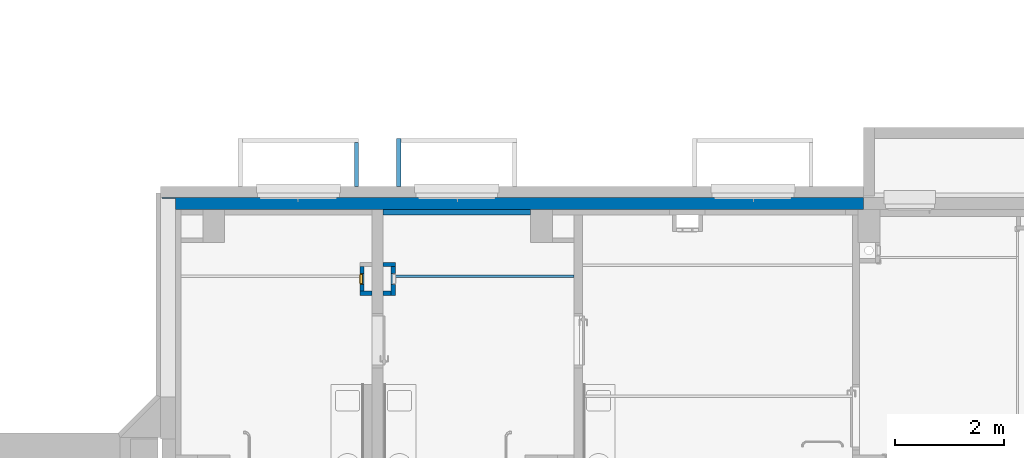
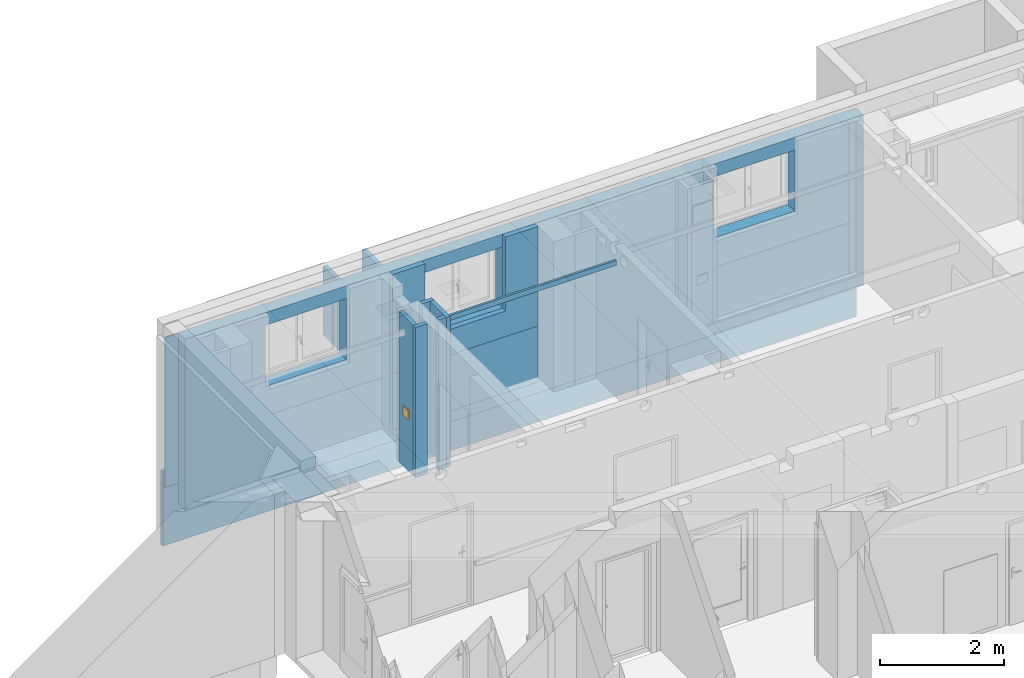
# One storey, part 23 of 84: 11 walls, 1 window, 8 openings.
"""IFC4 building model written with IfcOpenShell, lengths in metres."""

from ifc_helpers import new_model, entity, si_unit, converted_unit, derived_unit, frame, frame_2d, origin, origin_with_axes, place, context, subcontext, project, spatial, polyline, rectangle, outline, extrude, clip, bounded_halfspace, faceted_brep, source, transform, mapped, material, layer, layer_set, layer_usage, element, fill, save


model = new_model("IFC4")

# Units and contexts
model_context = context("Model", 3, precision=1e-05, world=origin())
body_context = subcontext(model_context, "Body", "Model", "MODEL_VIEW")
ifc_project = project(units=[si_unit("LENGTHUNIT", "METRE"), si_unit("AREAUNIT", "SQUARE_METRE"), si_unit("VOLUMEUNIT", "CUBIC_METRE"), si_unit("MASSUNIT", "GRAM", prefix="KILO"), converted_unit("PLANEANGLEUNIT", "DEGREE", entity("IfcPlaneAngleMeasure", 0.0174532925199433), si_unit("PLANEANGLEUNIT", "RADIAN"), dimensions=[0, 0, 0, 0, 0, 0, 0]), derived_unit("THERMALTRANSMITTANCEUNIT", [(si_unit("POWERUNIT", "WATT"), 1), (si_unit("THERMODYNAMICTEMPERATUREUNIT", "KELVIN"), -1), (si_unit("LENGTHUNIT", "METRE"), -2)]), derived_unit("VOLUMETRICFLOWRATEUNIT", [(si_unit("LENGTHUNIT", "METRE"), 3), (converted_unit("TIMEUNIT", "hour", entity("IfcTimeMeasure", 3600.0), si_unit("TIMEUNIT", "SECOND"), dimensions=[0, 0, 1, 0, 0, 0, 0]), -1), (si_unit("LENGTHUNIT", "METRE"), -1)])], contexts=[model_context])

# Site, building, storey
site_placement = place(None, origin())
site = spatial("IfcSite", under=ifc_project, at=site_placement, Name="3. ASŘ", CompositionType="ELEMENT")
building_placement = place(site_placement, origin())
building = spatial("IfcBuilding", under=site, at=building_placement, Name="Pavilon C", CompositionType="ELEMENT")
storey_placement = place(building_placement, frame((0.0, 0.0, -3.3)))
storey = spatial("IfcBuildingStorey", under=building, at=storey_placement, Name="Půdorys 1.PP", CompositionType="ELEMENT", Elevation=-3.3)

# Wall, openings
ifc_material_1 = material(Name="ZELEZOBETONOVÁ KCE")
ifc_layer_1 = layer(ifc_material_1, 0.200000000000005)
ifc_material_2 = material(Name="LIGNOPOR")
ifc_layer_2 = layer(ifc_material_2, 0.025)
ifc_material_3 = material(Name="PÓROBETONOVÉ ZDIVO")
ifc_layer_3 = layer(ifc_material_3, 0.08)
ifc_layer_set_1 = layer_set([ifc_layer_1, ifc_layer_2, ifc_layer_3])
ifc_layer_usage_1 = layer_usage(ifc_layer_set_1, "AXIS2", "POSITIVE", 0.0)
wall_1_placement = place(storey_placement, frame((-0.699999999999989, 15.0, -1.15), z_axis=(0.0, 0.0, 1.0), x_axis=(1.0, -1.44364238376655e-16, 0.0)))
wall_1 = element("IfcWall", 1, at=wall_1_placement, inside=storey, material=ifc_layer_usage_1, Name="ZELEZOBETONOVÁ KCE", context=body_context, shape_type="Clipping", body=[
    clip(clip(clip(extrude(outline(polyline([(-4.40310927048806e-17, 0.305000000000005), (-3.24819536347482e-17, 0.225000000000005), (0.025, 0.225000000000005), (0.025, 0.200000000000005), (0.275, 0.200000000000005), (0.275, 1.85868956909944e-15), (12.875, 1.85868956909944e-15), (12.875, 0.305000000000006), (-4.40310927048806e-17, 0.305000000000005)])), frame((-0.275, -1.85868956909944e-15, 0.0), z_axis=(0.0, 0.0, 1.0), x_axis=(1.0, 0.0, 0.0)), (0.0, 0.0, 1.0), 4.1), bounded_halfspace(frame((6.3, 0.100000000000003, 0.75), z_axis=(0.0, 0.0, 1.0), x_axis=(1.44364238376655e-16, -1.0, 0.0)), True, origin_with_axes(), polyline([(6.53248178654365e-16, 0.200000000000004), (6.82121026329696e-16, 9.8473882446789e-32), (12.6, 0.0), (12.6, 0.200000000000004), (6.53248178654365e-16, 0.200000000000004)]))), bounded_halfspace(frame((4.94, 0.210000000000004, 1.15), z_axis=(1.76944494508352e-17, -8.91800252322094e-15, 1.0), x_axis=(1.44364238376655e-16, -1.0, 0.0)), True, origin_with_axes(), polyline([(-0.25, 0.225000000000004), (-0.25, 0.200000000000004), (6.53248178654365e-16, 0.200000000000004), (12.6, 0.200000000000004), (12.6, 0.225000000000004), (-0.25, 0.225000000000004)]))), bounded_halfspace(frame((4.88, 0.257000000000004, 1.45), z_axis=(0.0, 0.0, -1.0), x_axis=(1.0, 2.80864276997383e-18, 0.0)), True, origin_with_axes(), polyline([(-0.25, 0.225000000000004), (12.6, 0.225000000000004), (12.6, 0.305000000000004), (-0.275, 0.305000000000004), (-0.275, 0.225000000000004), (-0.25, 0.225000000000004)]))),
])
opening_1_placement = place(wall_1_placement, frame((2.99999999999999, 0.200000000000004, 2.65), z_axis=(0.0, -1.0, 0.0), x_axis=(0.0, 0.0, 1.0)))
element("IfcOpeningElement", 2, at=opening_1_placement, cuts=wall_1, Name="Okenní otvor", ObjectType="Opening", context=body_context, shape_type="SweptSolid", body=[
    extrude(outline(polyline([(0.0, 1.5), (1.2, 1.5), (1.2, 0.0), (0.0, 0.0), (0.0, 1.5)])), origin_with_axes(), (0.0, 0.0, 1.0), 0.200000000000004),
    extrude(outline(polyline([(0.0, 1.5), (1.2, 1.5), (1.2, 0.0), (0.0, 0.0), (0.0, 1.5)])), frame((0.0, 0.0, -0.025), z_axis=(0.0, 0.0, 1.0), x_axis=(1.0, 0.0, 0.0)), (0.0, 0.0, 1.0), 0.025),
    extrude(outline(polyline([(0.0, 1.5), (1.2, 1.5), (1.2, 0.0), (0.0, 0.0), (0.0, 1.5)])), frame((0.0, 0.0, -0.105), z_axis=(0.0, 0.0, 1.0), x_axis=(1.0, 0.0, 0.0)), (0.0, 0.0, 1.0), 0.08),
])
opening_2_placement = place(wall_1_placement, frame((5.89999999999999, 0.200000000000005, 2.65), z_axis=(0.0, -1.0, 0.0), x_axis=(0.0, 0.0, 1.0)))
element("IfcOpeningElement", 3, at=opening_2_placement, cuts=wall_1, Name="Okenní otvor", ObjectType="Opening", context=body_context, shape_type="SweptSolid", body=[
    extrude(outline(polyline([(0.0, 1.5), (1.2, 1.5), (1.2, 0.0), (0.0, 0.0), (0.0, 1.5)])), origin_with_axes(), (0.0, 0.0, 1.0), 0.200000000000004),
    extrude(outline(polyline([(0.0, 1.5), (1.2, 1.5), (1.2, 0.0), (0.0, 0.0), (0.0, 1.5)])), frame((0.0, 0.0, -0.025), z_axis=(0.0, 0.0, 1.0), x_axis=(1.0, 0.0, 0.0)), (0.0, 0.0, 1.0), 0.025),
    extrude(outline(polyline([(0.0, 1.5), (1.2, 1.5), (1.2, 0.0), (0.0, 0.0), (0.0, 1.5)])), frame((0.0, 0.0, -0.105), z_axis=(0.0, 0.0, 1.0), x_axis=(1.0, 0.0, 0.0)), (0.0, 0.0, 1.0), 0.08),
])
opening_3_placement = place(wall_1_placement, frame((5.89999999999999, 0.200000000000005, 2.65), z_axis=(0.0, -1.0, 0.0), x_axis=(0.0, 0.0, 1.0)))
element("IfcOpeningElement", 4, at=opening_3_placement, cuts=wall_1, Name="Okenní otvor", ObjectType="Opening", context=body_context, shape_type="SweptSolid", body=[
    extrude(outline(polyline([(0.0, 1.5), (1.2, 1.5), (1.2, 0.0), (0.0, 0.0), (0.0, 1.5)])), origin_with_axes(), (0.0, 0.0, 1.0), 0.200000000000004),
    extrude(outline(polyline([(0.0, 1.5), (1.2, 1.5), (1.2, 0.0), (0.0, 0.0), (0.0, 1.5)])), frame((0.0, 0.0, -0.025), z_axis=(0.0, 0.0, 1.0), x_axis=(1.0, 0.0, 0.0)), (0.0, 0.0, 1.0), 0.025),
    extrude(outline(polyline([(0.0, 1.5), (1.2, 1.5), (1.2, 0.0), (0.0, 0.0), (0.0, 1.5)])), frame((0.0, 0.0, -0.105), z_axis=(0.0, 0.0, 1.0), x_axis=(1.0, 0.0, 0.0)), (0.0, 0.0, 1.0), 0.08),
])
opening_4_placement = place(wall_1_placement, frame((11.325, 0.200000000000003, 2.65), z_axis=(0.0, -1.0, 0.0), x_axis=(0.0, 0.0, 1.0)))
element("IfcOpeningElement", 5, at=opening_4_placement, cuts=wall_1, Name="Okenní otvor", ObjectType="Opening", context=body_context, shape_type="SweptSolid", body=[
    extrude(outline(polyline([(0.0, 1.5), (1.2, 1.5), (1.2, 0.0), (0.0, 0.0), (0.0, 1.5)])), origin_with_axes(), (0.0, 0.0, 1.0), 0.200000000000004),
    extrude(outline(polyline([(0.0, 1.5), (1.2, 1.5), (1.2, 0.0), (0.0, 0.0), (0.0, 1.5)])), frame((0.0, 0.0, -0.025), z_axis=(0.0, 0.0, 1.0), x_axis=(1.0, 0.0, 0.0)), (0.0, 0.0, 1.0), 0.025),
    extrude(outline(polyline([(0.0, 1.5), (1.2, 1.5), (1.2, 0.0), (0.0, 0.0), (0.0, 1.5)])), frame((0.0, 0.0, -0.105), z_axis=(0.0, 0.0, 1.0), x_axis=(1.0, 0.0, 0.0)), (0.0, 0.0, 1.0), 0.08),
])
opening_5_placement = place(wall_1_placement, frame((11.325, 0.200000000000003, 2.65), z_axis=(0.0, -1.0, 0.0), x_axis=(0.0, 0.0, 1.0)))
element("IfcOpeningElement", 6, at=opening_5_placement, cuts=wall_1, Name="Okenní otvor", ObjectType="Opening", context=body_context, shape_type="SweptSolid", body=[
    extrude(outline(polyline([(0.0, 1.5), (1.2, 1.5), (1.2, 0.0), (0.0, 0.0), (0.0, 1.5)])), origin_with_axes(), (0.0, 0.0, 1.0), 0.200000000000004),
    extrude(outline(polyline([(0.0, 1.5), (1.2, 1.5), (1.2, 0.0), (0.0, 0.0), (0.0, 1.5)])), frame((0.0, 0.0, -0.025), z_axis=(0.0, 0.0, 1.0), x_axis=(1.0, 0.0, 0.0)), (0.0, 0.0, 1.0), 0.025),
    extrude(outline(polyline([(0.0, 1.5), (1.2, 1.5), (1.2, 0.0), (0.0, 0.0), (0.0, 1.5)])), frame((0.0, 0.0, -0.105), z_axis=(0.0, 0.0, 1.0), x_axis=(1.0, 0.0, 0.0)), (0.0, 0.0, 1.0), 0.08),
])

# Walls
ifc_material_4 = material(Name="PÓROBETONOVÉ ZDIVO")
ifc_layer_4 = layer(ifc_material_4, 0.1)
ifc_layer_set_2 = layer_set([ifc_layer_4])
ifc_layer_usage_2 = layer_usage(ifc_layer_set_2, "AXIS2", "POSITIVE", 0.0)
wall_2_placement = place(storey_placement, frame((5.8, 15.0, -0.1), z_axis=(0.0, 0.0, 1.0), x_axis=(-1.0, 0.0, 0.0)))
element("IfcWall", 7, at=wall_2_placement, inside=storey, material=ifc_layer_usage_2, Name="PÓROBETONOVÉ ZDIVO", context=body_context, shape_type="SweptSolid", body=[
    extrude(rectangle(XDim=2.7, YDim=0.1, at=frame_2d((1.35, 0.05), x_axis=(1.0, 0.0))), origin_with_axes(), (0.0, 0.0, 1.0), 1.1),
])
ifc_material_5 = material(Name="POHLEDOVY BETON")
ifc_layer_5 = layer(ifc_material_5, 0.08)
ifc_layer_set_3 = layer_set([ifc_layer_5])
ifc_layer_usage_3 = layer_usage(ifc_layer_set_3, "AXIS2", "POSITIVE", 0.0)
wall_3_placement = place(storey_placement, frame((3.425, 15.425, 1.15), z_axis=(0.0, 0.0, 1.0), x_axis=(0.0, 1.0, 0.0)))
element("IfcWall", 8, at=wall_3_placement, inside=storey, material=ifc_layer_usage_3, Name="STĚNA ANGLICKÉHO DVORKU", context=body_context, shape_type="SweptSolid", body=[
    extrude(rectangle(XDim=0.880000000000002, YDim=0.08, at=frame_2d((0.440000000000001, 0.04), x_axis=(1.0, 0.0))), origin_with_axes(), (0.0, 0.0, 1.0), 1.35),
])
ifc_material_6 = material(Name="POHLEDOVY BETON")
ifc_layer_6 = layer(ifc_material_6, 0.08)
ifc_layer_set_4 = layer_set([ifc_layer_6])
ifc_layer_usage_4 = layer_usage(ifc_layer_set_4, "AXIS2", "POSITIVE", 0.0)
wall_4_placement = place(storey_placement, frame((2.655, 15.425, 1.15), z_axis=(0.0, 0.0, 1.0), x_axis=(0.0, 1.0, 0.0)))
element("IfcWall", 9, at=wall_4_placement, inside=storey, material=ifc_layer_usage_4, Name="STĚNA ANGLICKÉHO DVORKU", context=body_context, shape_type="SweptSolid", body=[
    extrude(rectangle(XDim=0.8, YDim=0.08, at=frame_2d((0.4, 0.04), x_axis=(1.0, 0.0))), origin_with_axes(), (0.0, 0.0, 1.0), 1.35),
])

# Wall, opening
ifc_material_7 = material(Name="YTONG 100")
ifc_layer_7 = layer(ifc_material_7, 0.1)
ifc_layer_set_5 = layer_set([ifc_layer_7])
ifc_layer_usage_5 = layer_usage(ifc_layer_set_5, "AXIS2", "POSITIVE", 0.0)
wall_5_placement = place(storey_placement, frame((3.1, 14.9, 1.0)))
wall_5 = element("IfcWall", 10, at=wall_5_placement, inside=storey, material=ifc_layer_usage_5, Name="YTONG 100", context=body_context, shape_type="SweptSolid", body=[
    extrude(rectangle(XDim=2.7, YDim=0.1, at=frame_2d((1.35, 0.05), x_axis=(1.0, 0.0))), origin_with_axes(), (0.0, 0.0, 1.0), 1.95),
])
opening_6_placement = place(wall_5_placement, frame((0.6, 0.0, 0.5), z_axis=(0.0, 1.0, 0.0), x_axis=(0.0, 0.0, 1.0)))
element("IfcOpeningElement", 11, at=opening_6_placement, cuts=wall_5, Name="Okenní otvor", ObjectType="Opening", context=body_context, shape_type="SweptSolid", body=[
    extrude(outline(polyline([(0.0, 1.5), (1.45, 1.5), (1.45, 0.0), (0.0, 0.0), (0.0, 1.5)])), origin_with_axes(), (0.0, 0.0, 1.0), 0.1),
])

# Wall
ifc_material_8 = material(Name="SDK SVISLA CAST PODHLEDU")
ifc_layer_8 = layer(ifc_material_8, 0.0400000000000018)
ifc_layer_set_6 = layer_set([ifc_layer_8])
ifc_layer_usage_6 = layer_usage(ifc_layer_set_6, "AXIS2", "POSITIVE", 0.0)
wall_6_placement = place(storey_placement, frame((6.6, 13.8, 2.6), z_axis=(0.0, 0.0, 1.0), x_axis=(-1.0, 0.0, 0.0)))
element("IfcWall", 12, at=wall_6_placement, inside=storey, material=ifc_layer_usage_6, Name="SDK SVISLA CAST PODHLEDU", context=body_context, shape_type="SweptSolid", body=[
    extrude(rectangle(XDim=3.275, YDim=0.0400000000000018, at=frame_2d((1.6375, 0.0200000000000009), x_axis=(1.0, 0.0))), origin_with_axes(), (0.0, 0.0, 1.0), 0.1),
])

# Wall, opening, window
ifc_material_9 = material(Name="SDK ŠACHTOVÁ STĚNA/SDK OPL. S PO")
ifc_layer_9 = layer(ifc_material_9, 0.075)
ifc_layer_set_7 = layer_set([ifc_layer_9])
ifc_layer_usage_7 = layer_usage(ifc_layer_set_7, "AXIS2", "POSITIVE", 0.0)
wall_7_placement = place(storey_placement, frame((2.75, 13.505, 0.0), z_axis=(0.0, 0.0, 1.0), x_axis=(0.0, 1.0, 0.0)))
wall_7 = element("IfcWall", 13, at=wall_7_placement, inside=storey, material=ifc_layer_usage_7, Name="SDK ŠACHTOVÁ STĚNA/SDK OPL. S PO", context=body_context, shape_type="SweptSolid", body=[
    extrude(rectangle(XDim=0.45, YDim=0.075, at=frame_2d((0.225, 0.0375), x_axis=(1.0, 0.0))), origin_with_axes(), (0.0, 0.0, 1.0), 2.95),
])
opening_7_placement = place(wall_7_placement, frame((0.325, 0.075, 1.0), z_axis=(0.0, -1.0, 0.0), x_axis=(0.0, 0.0, 1.0)))
opening_7 = element("IfcOpeningElement", 14, at=opening_7_placement, cuts=wall_7, Name="Okenní otvor", ObjectType="Opening", context=body_context, shape_type="SweptSolid", body=[
    extrude(outline(polyline([(0.0, 0.2), (0.2, 0.2), (0.2, 0.0), (0.0, 0.0), (0.0, 0.2)])), origin_with_axes(), (0.0, 0.0, 1.0), 0.075),
])
shared_shape = source(origin_with_axes(), body_context, "Body", "Brep", [
    faceted_brep([(0.0, 0.06, 0.2), (0.0, 0.06, 4.91096680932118e-19), (0.02, 0.06, 4.91096680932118e-19), (0.02, 0.06, 0.2), (0.0, 0.01, 6.61433067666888e-18), (0.0, 0.01, 0.2), (0.02, 0.01, 0.2), (0.02, 0.01, 6.61433067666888e-18)], [[[0, 1, 2, 3]], [[4, 5, 6, 7]], [[1, 0, 5, 4]], [[2, 1, 4, 7]], [[3, 2, 7, 6]], [[0, 3, 6, 5]]], orient=[[False], [False], [False], [False], [False], [False]]),
    faceted_brep([(0.18, 0.06, 0.2), (0.18, 0.06, 4.91096680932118e-19), (0.2, 0.06, 4.91096680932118e-19), (0.2, 0.06, 0.2), (0.18, 0.01, 6.61433067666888e-18), (0.18, 0.01, 0.2), (0.2, 0.01, 0.2), (0.2, 0.01, 6.61433067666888e-18)], [[[0, 1, 2, 3]], [[4, 5, 6, 7]], [[1, 0, 5, 4]], [[2, 1, 4, 7]], [[3, 2, 7, 6]], [[0, 3, 6, 5]]], orient=[[False], [False], [False], [False], [False], [False]]),
    faceted_brep([(0.02, 0.06, 0.02), (0.02, 0.06, 4.91096680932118e-19), (0.18, 0.06, 4.91096680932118e-19), (0.18, 0.06, 0.02), (0.02, 0.01, 6.61433067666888e-18), (0.02, 0.01, 0.02), (0.18, 0.01, 0.02), (0.18, 0.01, 6.61433067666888e-18)], [[[0, 1, 2, 3]], [[4, 5, 6, 7]], [[1, 0, 5, 4]], [[2, 1, 4, 7]], [[3, 2, 7, 6]], [[0, 3, 6, 5]]], orient=[[False], [False], [False], [False], [False], [False]]),
    faceted_brep([(0.02, 0.06, 0.2), (0.02, 0.06, 0.18), (0.18, 0.06, 0.18), (0.18, 0.06, 0.2), (0.02, 0.01, 0.18), (0.02, 0.01, 0.2), (0.18, 0.01, 0.2), (0.18, 0.01, 0.18)], [[[0, 1, 2, 3]], [[4, 5, 6, 7]], [[1, 0, 5, 4]], [[2, 1, 4, 7]], [[3, 2, 7, 6]], [[0, 3, 6, 5]]], orient=[[False], [False], [False], [False], [False], [False]]),
    faceted_brep([(0.02, 0.01, 0.18), (0.02, 0.01, 0.02), (0.18, 0.01, 0.02), (0.18, 0.01, 0.18), (0.02, 0.0, 0.02), (0.02, 1.95399252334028e-17, 0.18), (0.18, 1.95399252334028e-17, 0.18), (0.18, 0.0, 0.02)], [[[0, 1, 2, 3]], [[4, 5, 6, 7]], [[1, 0, 5, 4]], [[2, 1, 4, 7]], [[3, 2, 7, 6]], [[0, 3, 6, 5]]], orient=[[False], [False], [False], [False], [False], [False]]),
])
window_placement = place(opening_7_placement, frame((0.0, 3.63797880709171e-15, -0.0100000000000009), z_axis=(1.0, 0.0, 0.0), x_axis=(0.0, 1.0, 1.22464679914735e-16)))
window = element("IfcWindow", 15, at=window_placement, inside=storey, OverallHeight=0.2, OverallWidth=0.2, PartitioningType="USERDEFINED", PredefinedType="WINDOW", context=body_context, shape_type="MappedRepresentation", body=[
    mapped(shared_shape, transform((0.0, 0.0, 0.0), x_axis=(1.0, 0.0, 0.0), y_axis=(0.0, 1.0, 0.0), z_axis=(0.0, 0.0, 1.0), scale=1.0)),
])
fill(opening_7, window)

# Walls
ifc_material_10 = material(Name="SDK ŠACHTOVÁ STĚNA/SDK OPL. S PO")
ifc_layer_10 = layer(ifc_material_10, 0.075)
ifc_layer_set_8 = layer_set([ifc_layer_10])
ifc_layer_usage_8 = layer_usage(ifc_layer_set_8, "AXIS2", "POSITIVE", 0.0)
wall_8_placement = place(storey_placement, frame((2.9, 13.505, 0.0), z_axis=(0.0, 0.0, 1.0), x_axis=(-1.0, 0.0, 0.0)))
element("IfcWall", 16, at=wall_8_placement, inside=storey, material=ifc_layer_usage_8, Name="SDK ŠACHTOVÁ STĚNA/SDK OPL. S PO", context=body_context, shape_type="SweptSolid", body=[
    extrude(rectangle(XDim=0.225, YDim=0.075, at=frame_2d((0.1125, 0.0375), x_axis=(1.0, 0.0))), origin_with_axes(), (0.0, 0.0, 1.0), 2.95),
])
ifc_material_11 = material(Name="SDK ŠACHTOVÁ STĚNA/SDK OPL. S PO")
ifc_layer_11 = layer(ifc_material_11, 0.075)
ifc_layer_set_9 = layer_set([ifc_layer_11])
ifc_layer_usage_9 = layer_usage(ifc_layer_set_9, "AXIS2", "POSITIVE", 0.0)
wall_9_placement = place(storey_placement, frame((3.1, 13.955, 0.0)))
element("IfcWall", 17, at=wall_9_placement, inside=storey, material=ifc_layer_usage_9, Name="SDK ŠACHTOVÁ STĚNA/SDK OPL. S PO", context=body_context, shape_type="SweptSolid", body=[
    extrude(rectangle(XDim=0.225, YDim=0.075, at=frame_2d((0.1125, 0.0375), x_axis=(1.0, 0.0))), origin_with_axes(), (0.0, 0.0, 1.0), 2.95),
])

# Wall, opening
ifc_material_12 = material(Name="SDK ŠACHTOVÁ STĚNA/SDK OPL. S PO")
ifc_layer_12 = layer(ifc_material_12, 0.075)
ifc_layer_set_10 = layer_set([ifc_layer_12])
ifc_layer_usage_10 = layer_usage(ifc_layer_set_10, "AXIS2", "POSITIVE", 0.0)
wall_10_placement = place(storey_placement, frame((3.25, 13.955, 0.0), z_axis=(0.0, 0.0, 1.0), x_axis=(0.0, -1.0, 0.0)))
wall_10 = element("IfcWall", 18, at=wall_10_placement, inside=storey, material=ifc_layer_usage_10, Name="SDK ŠACHTOVÁ STĚNA/SDK OPL. S PO", context=body_context, shape_type="SweptSolid", body=[
    extrude(rectangle(XDim=0.525, YDim=0.075, at=frame_2d((0.2625, 0.0375), x_axis=(1.0, 0.0))), origin_with_axes(), (0.0, 0.0, 1.0), 2.95),
])
opening_8_placement = place(wall_10_placement, frame((0.325, 0.075, 1.0), z_axis=(0.0, -1.0, 0.0), x_axis=(0.0, 0.0, 1.0)))
element("IfcOpeningElement", 19, at=opening_8_placement, cuts=wall_10, Name="Okenní otvor", ObjectType="Opening", context=body_context, shape_type="SweptSolid", body=[
    extrude(outline(polyline([(0.0, 0.2), (0.2, 0.2), (0.2, 0.0), (0.0, 0.0), (0.0, 0.2)])), origin_with_axes(), (0.0, 0.0, 1.0), 0.075),
])

# Wall
ifc_material_13 = material(Name="SDK ŠACHTOVÁ STĚNA/SDK OPL. S PO")
ifc_layer_13 = layer(ifc_material_13, 0.075)
ifc_layer_set_11 = layer_set([ifc_layer_13])
ifc_layer_usage_11 = layer_usage(ifc_layer_set_11, "AXIS2", "POSITIVE", 0.0)
wall_11_placement = place(storey_placement, frame((3.25, 13.505, 0.0), z_axis=(0.0, 0.0, 1.0), x_axis=(-1.0, 0.0, 0.0)))
element("IfcWall", 20, at=wall_11_placement, inside=storey, material=ifc_layer_usage_11, Name="SDK ŠACHTOVÁ STĚNA/SDK OPL. S PO", context=body_context, shape_type="SweptSolid", body=[
    extrude(rectangle(XDim=0.15, YDim=0.075, at=frame_2d((0.0749999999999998, 0.0375), x_axis=(1.0, 0.0))), origin_with_axes(), (0.0, 0.0, 1.0), 2.95),
])

save(model, "model.ifc")
